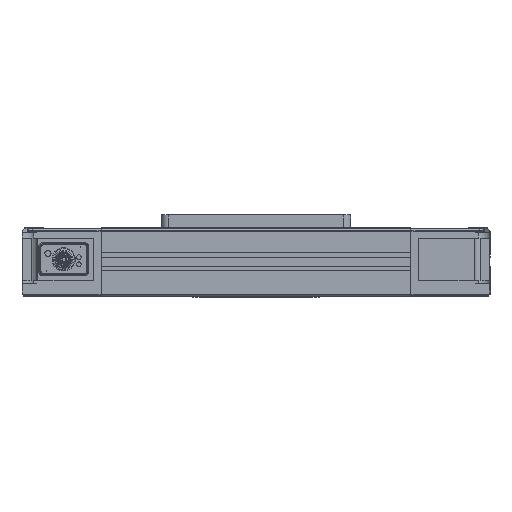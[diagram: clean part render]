
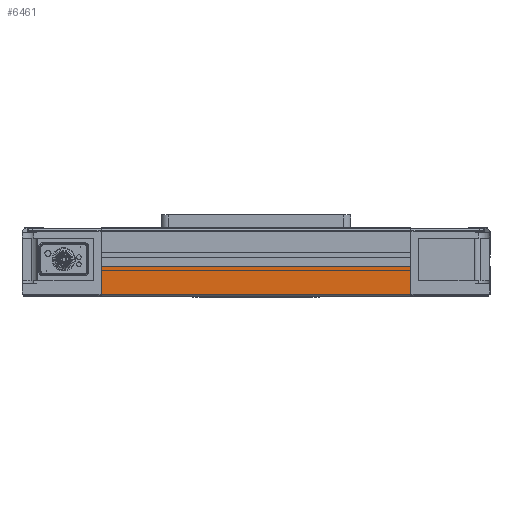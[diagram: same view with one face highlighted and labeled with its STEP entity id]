
A CAD part, front view. The second image highlights one B-rep face of the part: STEP entity #6461.
In plain terms, the highlighted planar face has unit normal (0, -1, 0).
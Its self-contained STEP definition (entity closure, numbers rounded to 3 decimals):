
#2479 = VERTEX_POINT ( 'NONE', #4059 ) ;
#3562 = EDGE_CURVE ( 'NONE', #9170, #2479, #18149, .T. ) ;
#4059 = CARTESIAN_POINT ( 'NONE',  ( -102., -304., 1.207 ) ) ;
#6461 = ADVANCED_FACE ( 'NONE', ( #24331 ), #37160, .T. ) ;
#7398 = CARTESIAN_POINT ( 'NONE',  ( -150., -304., 19.8 ) ) ;
#7413 = EDGE_CURVE ( 'NONE', #36711, #26238, #12004, .T. ) ;
#7527 = DIRECTION ( 'NONE',  ( -1., 0., 0. ) ) ;
#8583 = CARTESIAN_POINT ( 'NONE',  ( -150., -304., 45. ) ) ;
#9170 = VERTEX_POINT ( 'NONE', #15570 ) ;
#11863 = DIRECTION ( 'NONE',  ( 0., 0., -1. ) ) ;
#11932 = VECTOR ( 'NONE', #33476, 1000. ) ;
#12004 = LINE ( 'NONE', #30299, #11932 ) ;
#15557 = VECTOR ( 'NONE', #7527, 1000. ) ;
#15570 = CARTESIAN_POINT ( 'NONE',  ( -102., -304., 19.8 ) ) ;
#16004 = CARTESIAN_POINT ( 'NONE',  ( 546.294, -304., 1.207 ) ) ;
#16899 = ORIENTED_EDGE ( 'NONE', *, *, #22261, .T. ) ;
#17704 = VECTOR ( 'NONE', #35019, 1000. ) ;
#18149 = LINE ( 'NONE', #35968, #17704 ) ;
#22261 = EDGE_CURVE ( 'NONE', #26238, #9170, #40804, .T. ) ;
#22296 = DIRECTION ( 'NONE',  ( -1., 0., 0. ) ) ;
#24331 = FACE_OUTER_BOUND ( 'NONE', #28528, .T. ) ;
#26238 = VERTEX_POINT ( 'NONE', #31773 ) ;
#28528 = EDGE_LOOP ( 'NONE', ( #29450, #31412, #31942, #16899 ) ) ;
#29373 = VECTOR ( 'NONE', #22296, 1000. ) ;
#29450 = ORIENTED_EDGE ( 'NONE', *, *, #3562, .T. ) ;
#30294 = CARTESIAN_POINT ( 'NONE',  ( 102., -304., 1.207 ) ) ;
#30299 = CARTESIAN_POINT ( 'NONE',  ( 102., -304., 45. ) ) ;
#30345 = LINE ( 'NONE', #16004, #29373 ) ;
#30933 = DIRECTION ( 'NONE',  ( 0., -1., 0. ) ) ;
#31412 = ORIENTED_EDGE ( 'NONE', *, *, #37505, .F. ) ;
#31773 = CARTESIAN_POINT ( 'NONE',  ( 102., -304., 19.8 ) ) ;
#31942 = ORIENTED_EDGE ( 'NONE', *, *, #7413, .T. ) ;
#33476 = DIRECTION ( 'NONE',  ( 0., 0., 1. ) ) ;
#35019 = DIRECTION ( 'NONE',  ( 0., 0., -1. ) ) ;
#35968 = CARTESIAN_POINT ( 'NONE',  ( -102., -304., 45. ) ) ;
#36711 = VERTEX_POINT ( 'NONE', #30294 ) ;
#37160 = PLANE ( 'NONE',  #38513 ) ;
#37505 = EDGE_CURVE ( 'NONE', #36711, #2479, #30345, .T. ) ;
#38513 = AXIS2_PLACEMENT_3D ( 'NONE', #8583, #30933, #11863 ) ;
#40804 = LINE ( 'NONE', #7398, #15557 ) ;
